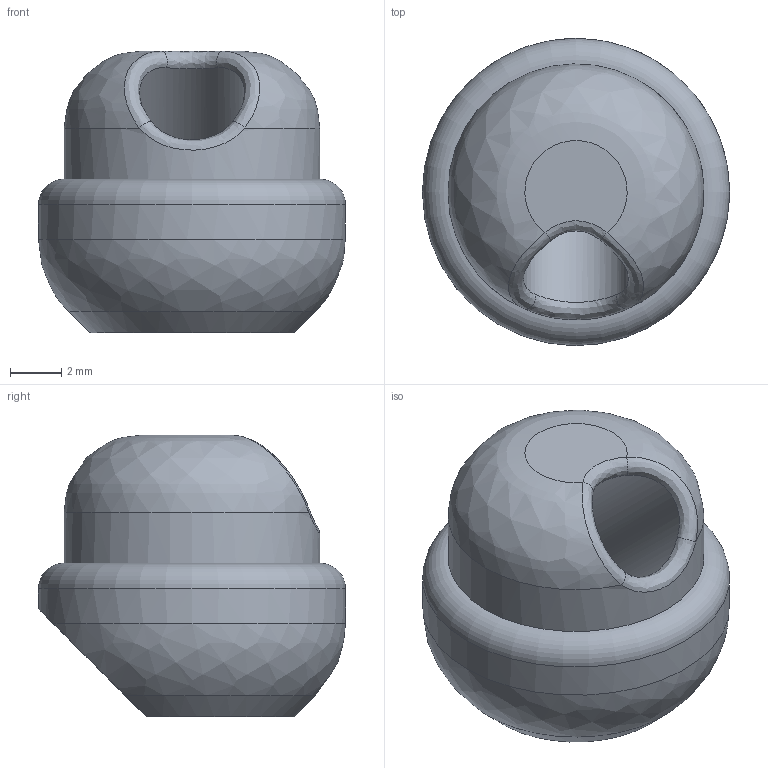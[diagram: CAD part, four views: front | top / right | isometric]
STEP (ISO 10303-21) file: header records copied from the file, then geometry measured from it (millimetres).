
FILE_DESCRIPTION(/* description */ (''),/* implementation_level */ '2;1');
FILE_NAME(/* name */ 'SBOOX_Druckbox_Fhrung.step',/* time_stamp */ '2025-09-07T12:48:34+02:00',/* author */ (''),/* organization */ (''),/* preprocessor_version */ 'ST-DEVELOPER v20.1',/* originating_system */ 'Autodesk Translation Framework v14.10.0.0',/* authorisation */ '');
FILE_SCHEMA (('AUTOMOTIVE_DESIGN { 1 0 10303 214 3 1 1 }'));
Length unit declared in the file: millimetre
Products named in the file (1): Pinöppel
Bounding box: 12 x 12 x 11 mm (x, y, z)
Volume: 747.6 mm3; surface area: 581.8 mm2
Topology: 1 solids, 1 shells, 15 faces, 35 edges, 21 vertices
Faces by surface type: bspline 6, plane 3, cylinder 3, cone 2, torus 1
Full cylindrical faces by diameter (mm): 4.1 x1, 10 x1, 12 x1
Entity records: 702 total; most frequent: CARTESIAN_POINT 349, ORIENTED_EDGE 70, DIRECTION 63, EDGE_CURVE 35, AXIS2_PLACEMENT_3D 29, VERTEX_POINT 21, EDGE_LOOP 16, CIRCLE 16
